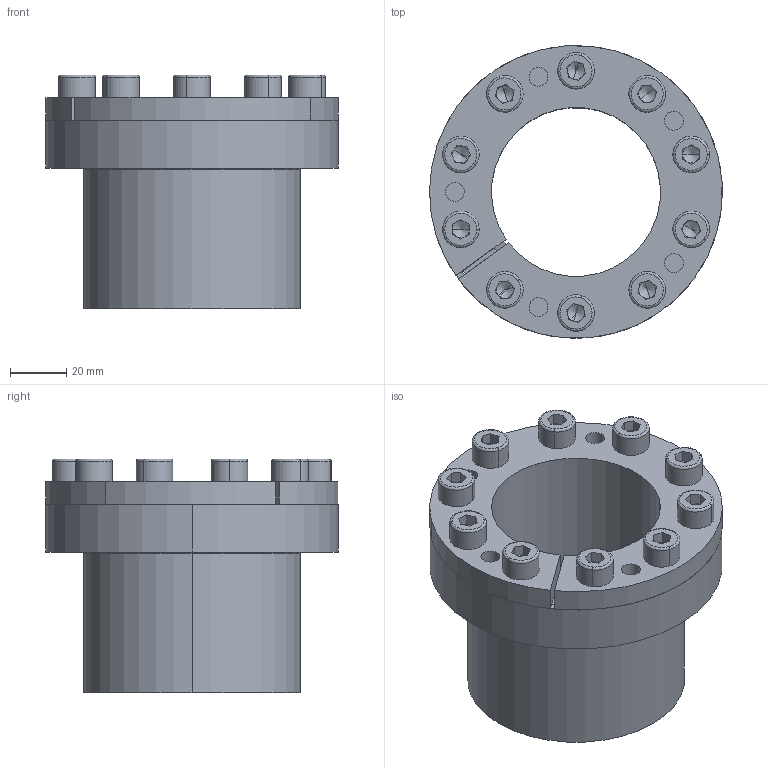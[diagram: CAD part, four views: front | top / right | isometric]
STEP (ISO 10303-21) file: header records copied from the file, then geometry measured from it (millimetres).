
FILE_DESCRIPTION (( 'STEP AP214' ), '1' );
FILE_NAME ('CONEX-B-60x77.step', '2013-04-04T12:42:13', ( 'Pc' ), ( '' ), 'SwSTEP 2.0', 'SolidWorks 2013', '' );
FILE_SCHEMA (( 'AUTOMOTIVE_DESIGN' ));
Length unit declared in the file: millimetre
Products named in the file (1): CONEX-B-60x77
Bounding box: 104 x 104 x 83.01 mm (x, y, z)
Volume: 216242.9 mm3; surface area: 103898 mm2
Topology: 13 solids, 13 shells, 360 faces, 828 edges, 494 vertices
Faces by surface type: plane 162, cylinder 106, torus 46, cone 46
Entity records: 14252 total; most frequent: DIRECTION 1916, CARTESIAN_POINT 1711, ORIENTED_EDGE 1616, EDGE_CURVE 808, AXIS2_PLACEMENT_3D 755, VERTEX_POINT 494, EDGE_LOOP 432, VECTOR 406
